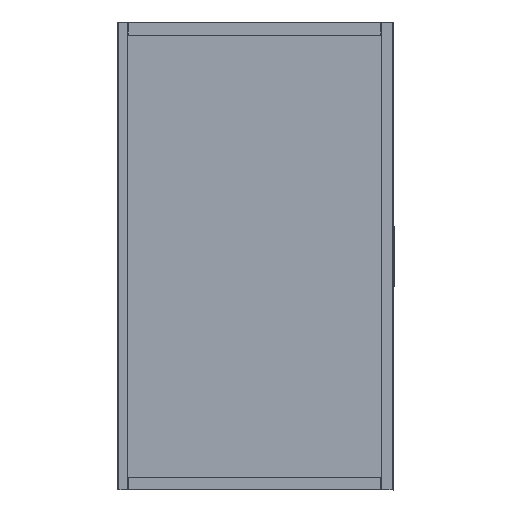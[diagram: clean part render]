
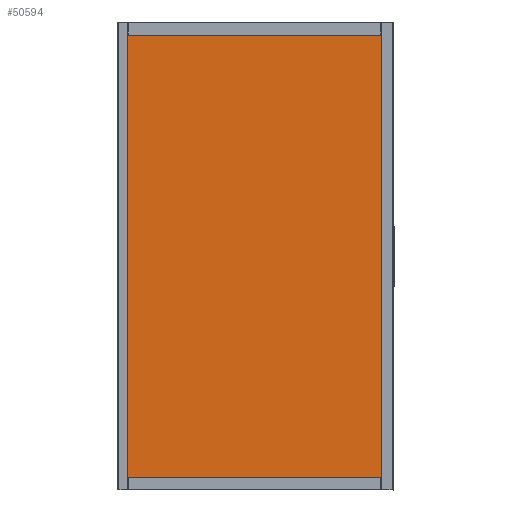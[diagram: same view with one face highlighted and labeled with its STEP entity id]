
A CAD part, front view. The second image highlights one B-rep face of the part: STEP entity #50594.
In plain terms, the highlighted planar face has unit normal (0, -1, 0).
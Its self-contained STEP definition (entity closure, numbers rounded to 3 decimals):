
#3114=LINE($,#86519,#7455);
#3310=LINE($,#87172,#7651);
#3342=LINE($,#87288,#7683);
#3381=LINE($,#87387,#7722);
#3383=LINE($,#87391,#7724);
#3384=LINE($,#87393,#7725);
#3430=LINE($,#87484,#7771);
#3822=LINE($,#88762,#8163);
#3850=LINE($,#88829,#8191);
#3896=LINE($,#88961,#8237);
#3899=LINE($,#88967,#8240);
#3903=LINE($,#88974,#8244);
#3915=LINE($,#88993,#8256);
#3916=LINE($,#88996,#8257);
#3919=LINE($,#89001,#8260);
#3920=LINE($,#89003,#8261);
#3921=LINE($,#89004,#8262);
#3922=LINE($,#89005,#8263);
#3923=LINE($,#89006,#8264);
#3924=LINE($,#89007,#8265);
#3925=LINE($,#89008,#8266);
#7455=VECTOR($,#62597,1908.);
#7651=VECTOR($,#63067,1084.);
#7683=VECTOR($,#63137,1084.);
#7722=VECTOR($,#63226,1084.);
#7724=VECTOR($,#63232,0.446);
#7725=VECTOR($,#63233,7.);
#7771=VECTOR($,#63313,1907.);
#8163=VECTOR($,#64383,1084.);
#8191=VECTOR($,#64437,1084.);
#8237=VECTOR($,#64545,1084.);
#8240=VECTOR($,#64550,8.15);
#8244=VECTOR($,#64556,7.85);
#8256=VECTOR($,#64572,7.85);
#8257=VECTOR($,#64575,1.);
#8260=VECTOR($,#64580,8.15);
#8261=VECTOR($,#64583,0.446);
#8262=VECTOR($,#64584,0.446);
#8263=VECTOR($,#64585,0.446);
#8264=VECTOR($,#64586,7.);
#8265=VECTOR($,#64587,7.);
#8266=VECTOR($,#64588,7.);
#10640=PLANE($,#54481);
#12254=FACE_BOUND($,#16758,.T.);
#12255=FACE_BOUND($,#16759,.T.);
#12256=FACE_BOUND($,#16760,.T.);
#16758=EDGE_LOOP($,(#39974,#39975,#39976,#39977));
#16759=EDGE_LOOP($,(#39978,#39979,#39980,#39981));
#16760=EDGE_LOOP($,(#39982,#39983,#39984,#39985,#39986,#39987,#39988,#39989,
#39990,#39991,#39992,#39993,#39994));
#22603=VERTEX_POINT($,#86517);
#22604=VERTEX_POINT($,#86518);
#22807=VERTEX_POINT($,#87170);
#22808=VERTEX_POINT($,#87171);
#22842=VERTEX_POINT($,#87286);
#22843=VERTEX_POINT($,#87287);
#22877=VERTEX_POINT($,#87384);
#22878=VERTEX_POINT($,#87386);
#22879=VERTEX_POINT($,#87392);
#22906=VERTEX_POINT($,#87482);
#22907=VERTEX_POINT($,#87483);
#23315=VERTEX_POINT($,#88760);
#23316=VERTEX_POINT($,#88761);
#23341=VERTEX_POINT($,#88827);
#23342=VERTEX_POINT($,#88828);
#23384=VERTEX_POINT($,#88958);
#23385=VERTEX_POINT($,#88960);
#23386=VERTEX_POINT($,#88964);
#23389=VERTEX_POINT($,#88971);
#23395=VERTEX_POINT($,#88995);
#23396=VERTEX_POINT($,#88999);
#28240=EDGE_CURVE($,#22603,#22604,#3114,.T.);
#28512=EDGE_CURVE($,#22807,#22808,#3310,.T.);
#28555=EDGE_CURVE($,#22842,#22843,#3342,.T.);
#28607=EDGE_CURVE($,#22877,#22878,#3381,.T.);
#28610=EDGE_CURVE($,#22843,#22807,#3383,.T.);
#28611=EDGE_CURVE($,#22878,#22879,#3384,.T.);
#28659=EDGE_CURVE($,#22906,#22907,#3430,.T.);
#29247=EDGE_CURVE($,#23315,#23316,#3822,.T.);
#29279=EDGE_CURVE($,#23341,#23342,#3850,.T.);
#29345=EDGE_CURVE($,#23384,#23385,#3896,.T.);
#29348=EDGE_CURVE($,#22907,#23386,#3899,.T.);
#29352=EDGE_CURVE($,#23389,#22603,#3903,.T.);
#29364=EDGE_CURVE($,#22604,#22879,#3915,.T.);
#29365=EDGE_CURVE($,#23395,#22906,#3916,.T.);
#29368=EDGE_CURVE($,#23396,#23395,#3919,.T.);
#29369=EDGE_CURVE($,#22808,#22842,#3920,.T.);
#29370=EDGE_CURVE($,#23316,#23341,#3921,.T.);
#29371=EDGE_CURVE($,#23342,#23315,#3922,.T.);
#29372=EDGE_CURVE($,#23389,#23384,#3923,.T.);
#29373=EDGE_CURVE($,#23396,#22877,#3924,.T.);
#29374=EDGE_CURVE($,#23385,#23386,#3925,.T.);
#39974=ORIENTED_EDGE($,*,*,#28512,.T.);
#39975=ORIENTED_EDGE($,*,*,#29369,.T.);
#39976=ORIENTED_EDGE($,*,*,#28555,.T.);
#39977=ORIENTED_EDGE($,*,*,#28610,.T.);
#39978=ORIENTED_EDGE($,*,*,#29247,.T.);
#39979=ORIENTED_EDGE($,*,*,#29370,.T.);
#39980=ORIENTED_EDGE($,*,*,#29279,.T.);
#39981=ORIENTED_EDGE($,*,*,#29371,.T.);
#39982=ORIENTED_EDGE($,*,*,#29372,.F.);
#39983=ORIENTED_EDGE($,*,*,#29352,.T.);
#39984=ORIENTED_EDGE($,*,*,#28240,.T.);
#39985=ORIENTED_EDGE($,*,*,#29364,.T.);
#39986=ORIENTED_EDGE($,*,*,#28611,.F.);
#39987=ORIENTED_EDGE($,*,*,#28607,.F.);
#39988=ORIENTED_EDGE($,*,*,#29373,.F.);
#39989=ORIENTED_EDGE($,*,*,#29368,.T.);
#39990=ORIENTED_EDGE($,*,*,#29365,.T.);
#39991=ORIENTED_EDGE($,*,*,#28659,.T.);
#39992=ORIENTED_EDGE($,*,*,#29348,.T.);
#39993=ORIENTED_EDGE($,*,*,#29374,.F.);
#39994=ORIENTED_EDGE($,*,*,#29345,.F.);
#50594=ADVANCED_FACE($,(#12254,#12255,#12256),#10640,.T.);
#54481=AXIS2_PLACEMENT_3D($,#89002,#64581,#64582);
#62597=DIRECTION($,(0.,0.,-1.));
#63067=DIRECTION($,(1.,0.,0.));
#63137=DIRECTION($,(-1.,0.,0.));
#63226=DIRECTION($,(-1.,0.,0.));
#63232=DIRECTION($,(0.,0.,1.));
#63233=DIRECTION($,(0.,0.,-1.));
#63313=DIRECTION($,(0.,0.,1.));
#64383=DIRECTION($,(-1.,0.,0.));
#64437=DIRECTION($,(1.,0.,0.));
#64545=DIRECTION($,(1.,0.,0.));
#64550=DIRECTION($,(-1.,0.,0.));
#64556=DIRECTION($,(-1.,0.,0.));
#64572=DIRECTION($,(1.,0.,0.));
#64575=DIRECTION($,(0.,0.,1.));
#64580=DIRECTION($,(1.,0.,0.));
#64581=DIRECTION('center_axis',(0.,-1.,0.));
#64582=DIRECTION('ref_axis',(1.,0.,0.));
#64583=DIRECTION($,(0.,0.,-1.));
#64584=DIRECTION($,(0.,0.,1.));
#64585=DIRECTION($,(0.,0.,-1.));
#64586=DIRECTION($,(0.,0.,-1.));
#64587=DIRECTION($,(0.,0.,1.));
#64588=DIRECTION($,(0.,0.,1.));
#86517=CARTESIAN_POINT('',(-302.075,-898.159,2908.14));
#86518=CARTESIAN_POINT('',(-302.075,-898.159,1000.14));
#86519=CARTESIAN_POINT($,(-302.075,-898.159,2908.14));
#87170=CARTESIAN_POINT('',(-294.225,-898.159,1008.713));
#87171=CARTESIAN_POINT('',(789.775,-898.159,1008.713));
#87172=CARTESIAN_POINT($,(-294.225,-898.159,1008.713));
#87286=CARTESIAN_POINT('',(789.775,-898.159,1008.266));
#87287=CARTESIAN_POINT('',(-294.225,-898.159,1008.266));
#87288=CARTESIAN_POINT($,(-294.225,-898.159,1008.266));
#87384=CARTESIAN_POINT('',(789.775,-898.159,1007.14));
#87386=CARTESIAN_POINT('',(-294.225,-898.159,1007.14));
#87387=CARTESIAN_POINT($,(381.35,-898.159,1007.14));
#87391=CARTESIAN_POINT($,(-294.225,-898.159,1717.023));
#87392=CARTESIAN_POINT('',(-294.225,-898.159,1000.14));
#87393=CARTESIAN_POINT($,(-294.225,-898.159,1706.465));
#87482=CARTESIAN_POINT('',(797.925,-898.159,1001.14));
#87483=CARTESIAN_POINT('',(797.925,-898.159,2908.14));
#87484=CARTESIAN_POINT($,(797.925,-898.159,1000.14));
#88760=CARTESIAN_POINT('',(789.775,-898.159,2899.567));
#88761=CARTESIAN_POINT('',(-294.225,-898.159,2899.567));
#88762=CARTESIAN_POINT($,(789.775,-898.159,2899.567));
#88827=CARTESIAN_POINT('',(-294.225,-898.159,2900.013));
#88828=CARTESIAN_POINT('',(789.775,-898.159,2900.013));
#88829=CARTESIAN_POINT($,(789.775,-898.159,2900.013));
#88958=CARTESIAN_POINT('',(-294.225,-898.159,2901.14));
#88960=CARTESIAN_POINT('',(789.775,-898.159,2901.14));
#88961=CARTESIAN_POINT($,(-160.65,-898.159,2901.14));
#88964=CARTESIAN_POINT('',(789.775,-898.159,2908.14));
#88967=CARTESIAN_POINT($,(797.925,-898.159,2908.14));
#88971=CARTESIAN_POINT('',(-294.225,-898.159,2908.14));
#88974=CARTESIAN_POINT($,(797.925,-898.159,2908.14));
#88993=CARTESIAN_POINT($,(-302.075,-898.159,1000.14));
#88995=CARTESIAN_POINT('',(797.925,-898.159,1000.14));
#88996=CARTESIAN_POINT($,(797.925,-898.159,1000.14));
#88999=CARTESIAN_POINT('',(789.775,-898.159,1000.14));
#89001=CARTESIAN_POINT($,(-302.075,-898.159,1000.14));
#89002=CARTESIAN_POINT('Origin',(-27.075,-898.159,2431.14));
#89003=CARTESIAN_POINT($,(789.775,-898.159,1717.023));
#89004=CARTESIAN_POINT($,(-294.225,-898.159,2668.256));
#89005=CARTESIAN_POINT($,(789.775,-898.159,2668.256));
#89006=CARTESIAN_POINT($,(-294.225,-898.159,2678.815));
#89007=CARTESIAN_POINT($,(789.775,-898.159,1706.465));
#89008=CARTESIAN_POINT($,(789.775,-898.159,2678.815));
